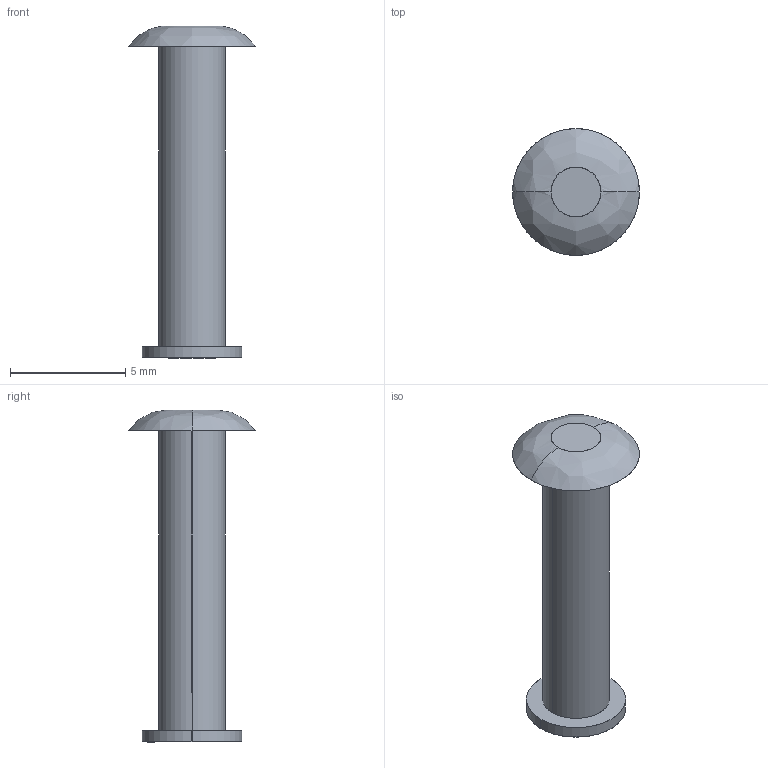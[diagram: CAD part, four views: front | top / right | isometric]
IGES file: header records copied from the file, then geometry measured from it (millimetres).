
Start section: SolidWorks IGES FILE using analytic representation for surfaces
Global section: file name: C:\WINNT\Profiles\cbrechard\Bureau\GE 570\534.300.00.IGS; native system: SolidWorks 2001Plus by SolidWorks Corporation; preprocessor: Version 5.3; author: CBRECHARD; date: 050125.140054; units: millimetre
Bounding box: 5.5 x 5.5 x 14.4 mm (x, y, z)
Surface area: 202.7 mm2 (no closed solid volume)
Topology: 0 solids, 0 shells, 15 faces, 296 edges, 296 vertices
Faces by surface type: bspline 9, revolution 6
